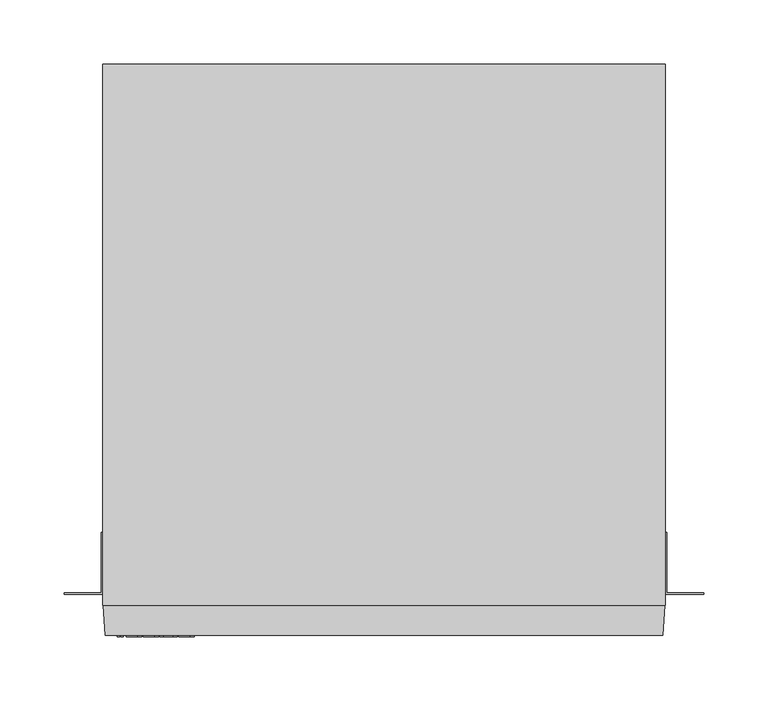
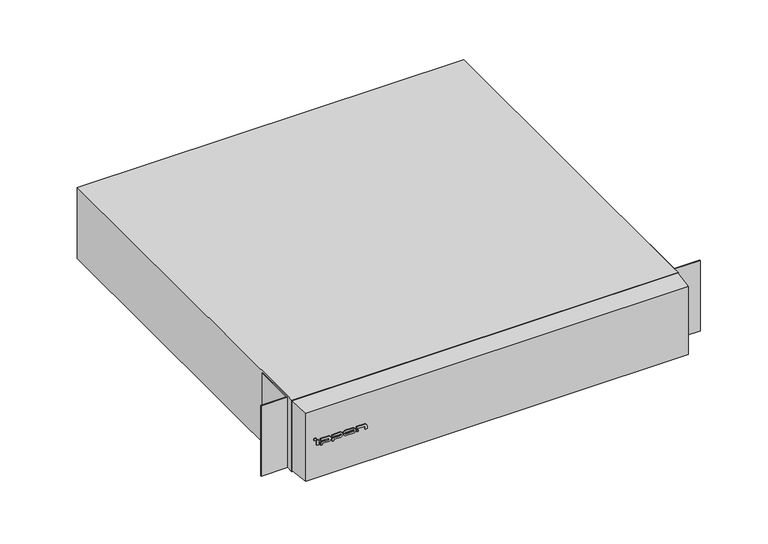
"""IFC4 building model written with IfcOpenShell, lengths in millimetres: proxy geometry, IPPON_EBM_Innova RT II_1000-1500_2000-3000ВА : EBM INNOVA RT II 1000/1500 ВА."""

from ifc_helpers import new_model, si_unit, point, frame, frame_2d, origin, place, context, project, spatial, polyline, circle_curve, trimmed, segment, composite_curve, outline, extrude, faceted_brep, source, transform, mapped, element, save


def electrical_equipment_c6e77d47(model_context):
    return source(origin(), model_context, "Body", "SolidModel", [
        extrude(outline(polyline([(-205.6884808, -1.0), (-207.6884808, -1.0), (-207.6884808, 0.0), (-205.6884808, 0.0), (-205.6884808, -1.0)])), frame((0.0, 0.0, 49.6413968), z_axis=(0.0, 0.0, 1.0), x_axis=(1.0, 0.0, 0.0)), (0.0, 0.0, 1.0), 2.3),
        extrude(outline(polyline([(-157.9131202, -1.0), (-159.9131202, -1.0), (-159.9131202, 0.0), (-157.9131202, 0.0), (-157.9131202, -1.0)])), frame((0.0, 0.0, 43.6413968), z_axis=(0.0, 0.0, 1.0), x_axis=(1.0, 0.0, 0.0)), (0.0, 0.0, 1.0), 2.2268231),
        extrude(outline(polyline([(-202.9552326, -1.0), (-205.0, -1.0), (-205.0, 0.0), (-202.9552326, 0.0), (-202.9552326, -1.0)])), frame((0.0, 0.0, 43.6413968), z_axis=(0.0, 0.0, 1.0), x_axis=(1.0, 0.0, 0.0)), (0.0, 0.0, 1.0), 6.0),
        extrude(outline(composite_curve([segment(polyline([(47.3789568, -200.7407784), (47.3789568, -191.5090211)]), True, "CONTINUOUS"), segment(trimmed(circle_curve(frame_2d((46.5224775, -191.5090211)), 0.8564793), [point((47.3789568, -191.5090211))], [point((45.6659982, -191.5090211))], True, "CARTESIAN"), True, "CONTINUOUS"), segment(polyline([(45.6659982, -191.5090211), (45.6659982, -200.7407784), (42.1754936, -200.7407784), (42.1754936, -198.7407784), (43.6413968, -198.7407784), (43.6413968, -191.6652711)]), True, "CONTINUOUS"), segment(trimmed(circle_curve(frame_2d((46.6413968, -191.6652711)), 3.0), [point((43.6413968, -191.6652711))], [point((49.6413968, -191.6652711))], False, "CARTESIAN"), True, "CONTINUOUS"), segment(polyline([(49.6413968, -191.6652711), (49.6413968, -200.7407784), (47.3789568, -200.7407784)]), True, "CONTINUOUS")], self_intersect=False)), frame((0.0, -1.0, 0.0), z_axis=(0.0, 1.0, 0.0), x_axis=(0.0, 0.0, 1.0)), (0.0, 0.0, 1.0), 1.0),
        extrude(outline(composite_curve([segment(polyline([(47.3789568, -187.5337767), (47.3789568, -178.3020194)]), True, "CONTINUOUS"), segment(trimmed(circle_curve(frame_2d((46.5224775, -178.3020194)), 0.8564793), [point((47.3789568, -178.3020194))], [point((45.6659982, -178.3020194))], True, "CARTESIAN"), True, "CONTINUOUS"), segment(polyline([(45.6659982, -178.3020194), (45.6659982, -187.5337767), (42.1754936, -187.5337767), (42.1754936, -185.5337767), (43.6413968, -185.5337767), (43.6413968, -178.4582694)]), True, "CONTINUOUS"), segment(trimmed(circle_curve(frame_2d((46.6413968, -178.4582694)), 3.0), [point((43.6413968, -178.4582694))], [point((49.6413968, -178.4582694))], False, "CARTESIAN"), True, "CONTINUOUS"), segment(polyline([(49.6413968, -178.4582694), (49.6413968, -187.5337767), (47.3789568, -187.5337767)]), True, "CONTINUOUS")], self_intersect=False)), frame((0.0, -1.0, 0.0), z_axis=(0.0, 1.0, 0.0), x_axis=(0.0, 0.0, 1.0)), (0.0, 0.0, 1.0), 1.0),
        extrude(outline(composite_curve([segment(trimmed(circle_curve(frame_2d((46.6413968, -163.9580105)), 3.0), [point((43.6413968, -163.9580105))], [point((49.6413968, -163.9580105))], False, "CARTESIAN"), True, "CONTINUOUS"), segment(polyline([(49.6413968, -163.9580105), (49.6413968, -171.5580105)]), True, "CONTINUOUS"), segment(trimmed(circle_curve(frame_2d((46.6413968, -171.5580105)), 3.0), [point((49.6413968, -171.5580105))], [point((43.6413968, -171.5580105))], False, "CARTESIAN"), True, "CONTINUOUS"), segment(polyline([(43.6413968, -171.5580105), (43.6413968, -163.9580105)]), True, "CONTINUOUS")], self_intersect=False), holes=[composite_curve([segment(polyline([(45.6659982, -163.8017605), (45.6659982, -171.7142605)]), True, "CONTINUOUS"), segment(trimmed(circle_curve(frame_2d((46.5224775, -171.7142605)), 0.8564793), [point((45.6659982, -171.7142605))], [point((47.3789568, -171.7142605))], True, "CARTESIAN"), True, "CONTINUOUS"), segment(polyline([(47.3789568, -171.7142605), (47.3789568, -163.8017605)]), True, "CONTINUOUS"), segment(trimmed(circle_curve(frame_2d((46.5224775, -163.8017605)), 0.8564793), [point((47.3789568, -163.8017605))], [point((45.6659982, -163.8017605))], True, "CARTESIAN"), True, "CONTINUOUS")], self_intersect=False)]), frame((0.0, -1.0, 0.0), z_axis=(0.0, 1.0, 0.0), x_axis=(0.0, 0.0, 1.0)), (0.0, 0.0, 1.0), 1.0),
        extrude(outline(composite_curve([segment(polyline([(47.3789568, -159.9131202), (47.3789568, -150.6813629)]), True, "CONTINUOUS"), segment(trimmed(circle_curve(frame_2d((46.5224775, -150.6813629)), 0.8564793), [point((47.3789568, -150.6813629))], [point((46.5224775, -149.8248836))], True, "CARTESIAN"), True, "CONTINUOUS"), segment(polyline([(46.5224775, -149.8248836), (43.6413968, -149.8248836), (43.6413968, -147.8848755), (47.1718133, -147.8848755)]), True, "CONTINUOUS"), segment(trimmed(circle_curve(frame_2d((46.6413968, -150.8376129)), 3.0), [point((47.1718133, -147.8848755))], [point((49.6413968, -150.8376129))], False, "CARTESIAN"), True, "CONTINUOUS"), segment(polyline([(49.6413968, -150.8376129), (49.6413968, -159.9131202), (47.3789568, -159.9131202)]), True, "CONTINUOUS")], self_intersect=False)), frame((0.0, -1.0, 0.0), z_axis=(0.0, 1.0, 0.0), x_axis=(0.0, 0.0, 1.0)), (0.0, 0.0, 1.0), 1.0),
        faceted_brep([(217.0, 0.0, 4.0), (217.0, 0.0, 85.5), (-217.0, 0.0, 85.5), (-217.0, 0.0, 4.0), (218.4248599, 23.5101876, 2.5751401), (218.4248599, 23.5101876, 86.9248599), (-218.4248599, 23.5101876, 86.9248599), (-218.4248599, 23.5101876, 2.5751401), (219.0, 445.0, 87.5), (219.0, 445.0, 2.0), (-219.0, 445.0, 2.0), (-219.0, 445.0, 87.5), (219.0, 23.5101876, 87.5), (-219.0, 23.5101876, 87.5), (-219.0, 23.5101876, 2.0), (219.0, 23.5101876, 2.0), (-219.0, 33.0, 87.5), (219.0, 33.0, 87.5), (-219.0, 33.0, 2.0), (219.0, 33.0, 2.0)], [[[0, 1, 2, 3]], [[1, 0, 4, 5]], [[2, 1, 5, 6]], [[3, 2, 6, 7]], [[0, 3, 7, 4]], [[8, 9, 10, 11]], [[12, 13, 14, 15], [5, 4, 7, 6]], [[8, 11, 16, 13, 12, 17]], [[11, 10, 18, 14, 13, 16]], [[10, 9, 19, 15, 14, 18]], [[9, 8, 17, 12, 15, 19]]]),
        extrude(outline(polyline([(219.0, 32.0), (219.0, 80.0), (220.0, 80.0), (220.0, 33.0), (249.0, 33.0), (249.0, 32.0), (219.0, 32.0)])), frame((0.0, 0.0, 2.0), z_axis=(0.0, 0.0, 1.0), x_axis=(1.0, 0.0, 0.0)), (0.0, 0.0, 1.0), 84.5),
        extrude(outline(polyline([(-219.0, 32.0), (-249.0, 32.0), (-249.0, 33.0), (-220.0, 33.0), (-220.0, 80.0), (-219.0, 80.0), (-219.0, 32.0)])), frame((0.0, 0.0, 2.0), z_axis=(0.0, 0.0, 1.0), x_axis=(1.0, 0.0, 0.0)), (0.0, 0.0, 1.0), 84.5),
    ])


if __name__ == "__main__":
    model = new_model("IFC4")
    model_context = context("Model", 3, world=origin())
    ifc_project = project(units=[si_unit("LENGTHUNIT", "METRE", prefix="MILLI")], contexts=[model_context])
    site = spatial("IfcSite", under=ifc_project)
    building = spatial("IfcBuilding", under=site)
    placement = place(None, origin())
    electrical_equipment_shape = electrical_equipment_c6e77d47(model_context)
    element("IfcBuildingElementProxy", 1, Name="IPPON_EBM_Innova RT II_1000-1500_2000-3000ВА : EBM INNOVA RT II 1000/1500 ВА", ObjectType="IPPON_EBM_Innova RT II_1000-1500_2000-3000ВА : EBM INNOVA RT II 1000/1500 ВА", at=placement, inside=building, context=model_context, shape_type="MappedRepresentation", body=[
        mapped(electrical_equipment_shape, transform((0.0, 0.0, 0.0), x_axis=(1.0, 0.0, 0.0), y_axis=(0.0, 1.0, 0.0), z_axis=(0.0, 0.0, 1.0))),
    ])
    save(model, "model.ifc")
